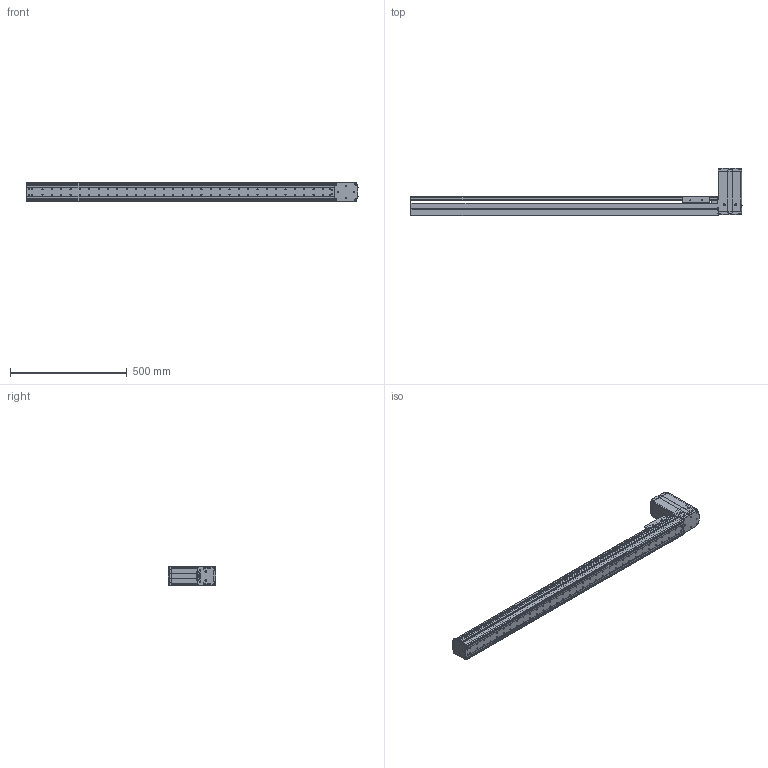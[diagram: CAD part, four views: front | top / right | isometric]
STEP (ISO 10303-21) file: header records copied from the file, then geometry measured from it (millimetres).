
FILE_DESCRIPTION((''),'2;1');
FILE_NAME('BE10_-BT-M_N-B0_IGS_PRT','2017-06-18T',(' '),(''),'PRO/ENGINEER BY PARAMETRIC TECHNOLOGY CORPORATION, 2015030','PRO/ENGINEER BY PARAMETRIC TECHNOLOGY CORPORATION, 2015030','');
FILE_SCHEMA(('CONFIG_CONTROL_DESIGN'));
Products named in the file (1): BE10_-BT-M_N-B0_IGS_PRT
Bounding box: 1420.8 x 204.72 x 78 mm (x, y, z)
Volume: 2042525 mm3; surface area: 1379006.3 mm2
Topology: 2 solids, 155 shells, 2220 faces, 6055 edges, 4001 vertices
Faces by surface type: plane 1054, cylinder 999, cone 111, sphere 28, torus 25, bspline 3
Entity records: 72195 total; most frequent: CARTESIAN_POINT 14742, DIRECTION 12205, ORIENTED_EDGE 11454, EDGE_CURVE 5993, AXIS2_PLACEMENT_3D 4407, VERTEX_POINT 4001, VECTOR 3391, LINE 3391
